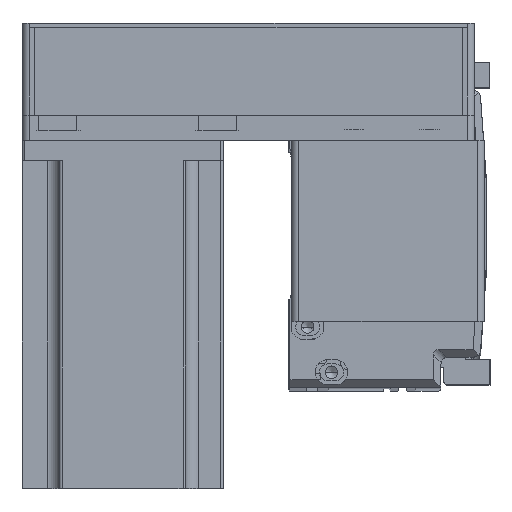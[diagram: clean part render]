
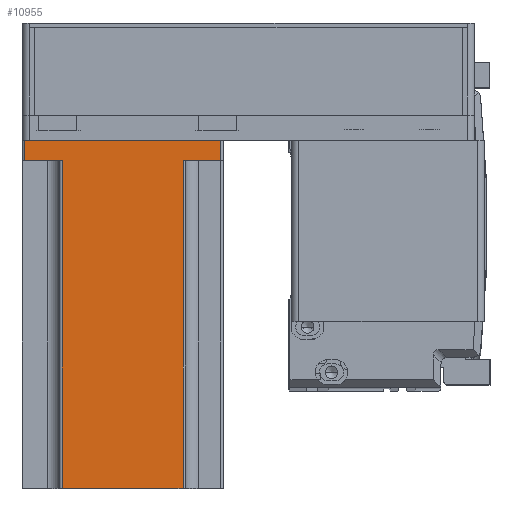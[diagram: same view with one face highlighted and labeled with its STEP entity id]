
A CAD part, top view. The second image highlights one B-rep face of the part: STEP entity #10955.
In plain terms, the highlighted planar face has unit normal (0, 0, 1) as drawn and (0, 1, 0) by its records, which use the part's own axes.
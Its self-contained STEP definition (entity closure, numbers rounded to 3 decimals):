
#230 = EDGE_CURVE ( 'NONE', #44946, #31370, #22043, .T. ) ;
#598 = VERTEX_POINT ( 'NONE', #4616 ) ;
#1076 = EDGE_CURVE ( 'NONE', #19489, #17376, #33692, .T. ) ;
#1273 = CARTESIAN_POINT ( 'NONE',  ( -25., 40., 8. ) ) ;
#1402 = ORIENTED_EDGE ( 'NONE', *, *, #1076, .T. ) ;
#2115 = VECTOR ( 'NONE', #35323, 1000. ) ;
#2619 = CARTESIAN_POINT ( 'NONE',  ( 24., 40., 138.3 ) ) ;
#3757 = VECTOR ( 'NONE', #8035, 1000. ) ;
#4067 = ORIENTED_EDGE ( 'NONE', *, *, #230, .T. ) ;
#4265 = CARTESIAN_POINT ( 'NONE',  ( 39., 40., 138.3 ) ) ;
#4304 = CARTESIAN_POINT ( 'NONE',  ( 40., 40., 0. ) ) ;
#4518 = CARTESIAN_POINT ( 'NONE',  ( 40., 40., 138.3 ) ) ;
#4616 = CARTESIAN_POINT ( 'NONE',  ( -39., 40., 0. ) ) ;
#7752 = EDGE_CURVE ( 'NONE', #598, #31701, #34111, .T. ) ;
#7912 = DIRECTION ( 'NONE',  ( -1., 0., 0. ) ) ;
#8035 = DIRECTION ( 'NONE',  ( 0., 0., -1. ) ) ;
#8272 = ORIENTED_EDGE ( 'NONE', *, *, #18522, .F. ) ;
#8301 = DIRECTION ( 'NONE',  ( 1., 0., 0. ) ) ;
#9086 = CARTESIAN_POINT ( 'NONE',  ( -24., 40., 138.3 ) ) ;
#9203 = CARTESIAN_POINT ( 'NONE',  ( 39., 40., 8. ) ) ;
#9242 = AXIS2_PLACEMENT_3D ( 'NONE', #4518, #30759, #8301 ) ;
#9454 = EDGE_CURVE ( 'NONE', #43299, #28924, #40040, .T. ) ;
#10770 = LINE ( 'NONE', #12445, #19553 ) ;
#10955 = ADVANCED_FACE ( 'NONE', ( #18227 ), #15649, .F. ) ;
#12445 = CARTESIAN_POINT ( 'NONE',  ( 40., 40., 138.3 ) ) ;
#15649 = PLANE ( 'NONE',  #9242 ) ;
#16343 = VECTOR ( 'NONE', #7912, 1000. ) ;
#17376 = VERTEX_POINT ( 'NONE', #32225 ) ;
#17433 = VECTOR ( 'NONE', #48605, 1000. ) ;
#17824 = VECTOR ( 'NONE', #27535, 1000. ) ;
#18227 = FACE_OUTER_BOUND ( 'NONE', #23726, .T. ) ;
#18522 = EDGE_CURVE ( 'NONE', #43299, #31370, #10770, .T. ) ;
#19489 = VERTEX_POINT ( 'NONE', #9203 ) ;
#19553 = VECTOR ( 'NONE', #46185, 1000. ) ;
#20918 = ORIENTED_EDGE ( 'NONE', *, *, #42216, .T. ) ;
#22043 = LINE ( 'NONE', #9086, #2115 ) ;
#22213 = CARTESIAN_POINT ( 'NONE',  ( -39., 40., 138.3 ) ) ;
#23726 = EDGE_LOOP ( 'NONE', ( #20918, #4067, #8272, #28140, #45560, #1402, #43738, #31659 ) ) ;
#24132 = VECTOR ( 'NONE', #48455, 1000. ) ;
#25613 = CARTESIAN_POINT ( 'NONE',  ( -24., 40., 138.3 ) ) ;
#25748 = CARTESIAN_POINT ( 'NONE',  ( 24., 40., 8. ) ) ;
#27457 = LINE ( 'NONE', #44769, #17433 ) ;
#27535 = DIRECTION ( 'NONE',  ( 1., 0., 0. ) ) ;
#28140 = ORIENTED_EDGE ( 'NONE', *, *, #9454, .T. ) ;
#28863 = CARTESIAN_POINT ( 'NONE',  ( -24., 40., 8. ) ) ;
#28924 = VERTEX_POINT ( 'NONE', #25748 ) ;
#30146 = VECTOR ( 'NONE', #32635, 1000. ) ;
#30759 = DIRECTION ( 'NONE',  ( 0., -1., 0. ) ) ;
#31370 = VERTEX_POINT ( 'NONE', #25613 ) ;
#31659 = ORIENTED_EDGE ( 'NONE', *, *, #7752, .T. ) ;
#31701 = VERTEX_POINT ( 'NONE', #39002 ) ;
#32225 = CARTESIAN_POINT ( 'NONE',  ( 39., 40., 0. ) ) ;
#32635 = DIRECTION ( 'NONE',  ( 0., 0., -1. ) ) ;
#33616 = EDGE_CURVE ( 'NONE', #17376, #598, #45053, .T. ) ;
#33692 = LINE ( 'NONE', #4265, #3757 ) ;
#34111 = LINE ( 'NONE', #22213, #24132 ) ;
#35323 = DIRECTION ( 'NONE',  ( 0., 0., 1. ) ) ;
#37779 = LINE ( 'NONE', #1273, #17824 ) ;
#37905 = CARTESIAN_POINT ( 'NONE',  ( 24., 40., 138.3 ) ) ;
#39002 = CARTESIAN_POINT ( 'NONE',  ( -39., 40., 8. ) ) ;
#40040 = LINE ( 'NONE', #2619, #30146 ) ;
#42216 = EDGE_CURVE ( 'NONE', #31701, #44946, #37779, .T. ) ;
#43299 = VERTEX_POINT ( 'NONE', #37905 ) ;
#43738 = ORIENTED_EDGE ( 'NONE', *, *, #33616, .T. ) ;
#44769 = CARTESIAN_POINT ( 'NONE',  ( 25., 40., 8. ) ) ;
#44946 = VERTEX_POINT ( 'NONE', #28863 ) ;
#45053 = LINE ( 'NONE', #4304, #16343 ) ;
#45560 = ORIENTED_EDGE ( 'NONE', *, *, #45568, .F. ) ;
#45568 = EDGE_CURVE ( 'NONE', #19489, #28924, #27457, .T. ) ;
#46185 = DIRECTION ( 'NONE',  ( -1., 0., 0. ) ) ;
#48455 = DIRECTION ( 'NONE',  ( 0., 0., 1. ) ) ;
#48605 = DIRECTION ( 'NONE',  ( -1., 0., 0. ) ) ;
